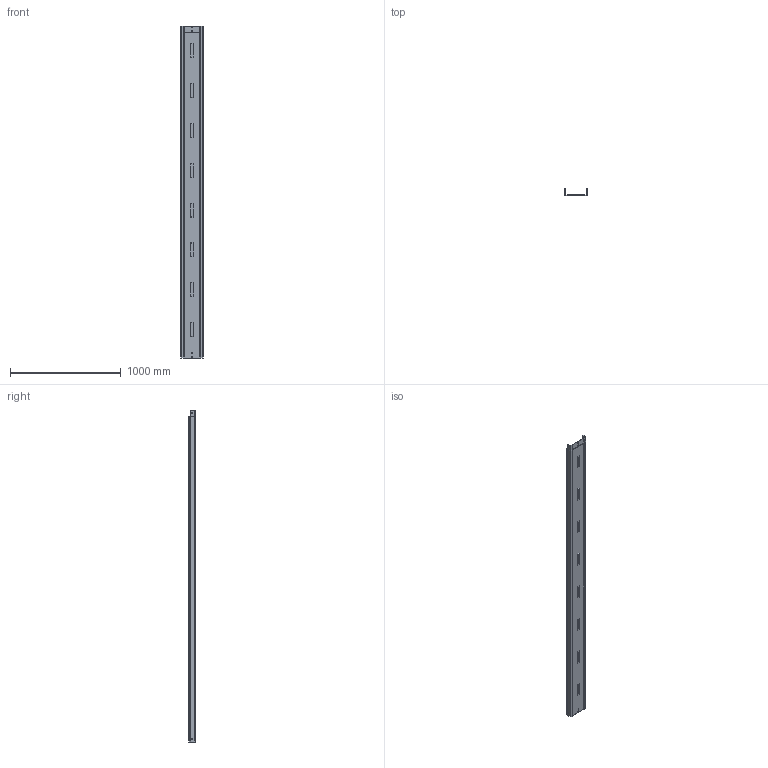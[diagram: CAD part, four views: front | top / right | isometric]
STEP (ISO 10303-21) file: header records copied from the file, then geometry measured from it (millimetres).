
FILE_DESCRIPTION (( 'STEP AP214' ), '1' );
FILE_NAME ('ERE-C 200x60.STEP', '2023-06-28T09:55:02', ( '' ), ( '' ), 'SwSTEP 2.0', 'SolidWorks 2022', '' );
FILE_SCHEMA (( 'AUTOMOTIVE_DESIGN' ));
Products named in the file (1): ERE-C 200x60
Bounding box: 200 x 60.8 x 3000 mm (x, y, z)
Surface area: 1989192.2 mm2 (no closed solid volume)
Topology: 0 solids, 3 shells, 9978 faces, 29446 edges, 19552 vertices
Faces by surface type: plane 9734, cylinder 156, torus 64, cone 24
Entity records: 325704 total; most frequent: CARTESIAN_POINT 59135, ORIENTED_EDGE 58788, DIRECTION 49818, EDGE_CURVE 29446, VECTOR 28932, LINE 28932, VERTEX_POINT 19552, AXIS2_PLACEMENT_3D 10443
